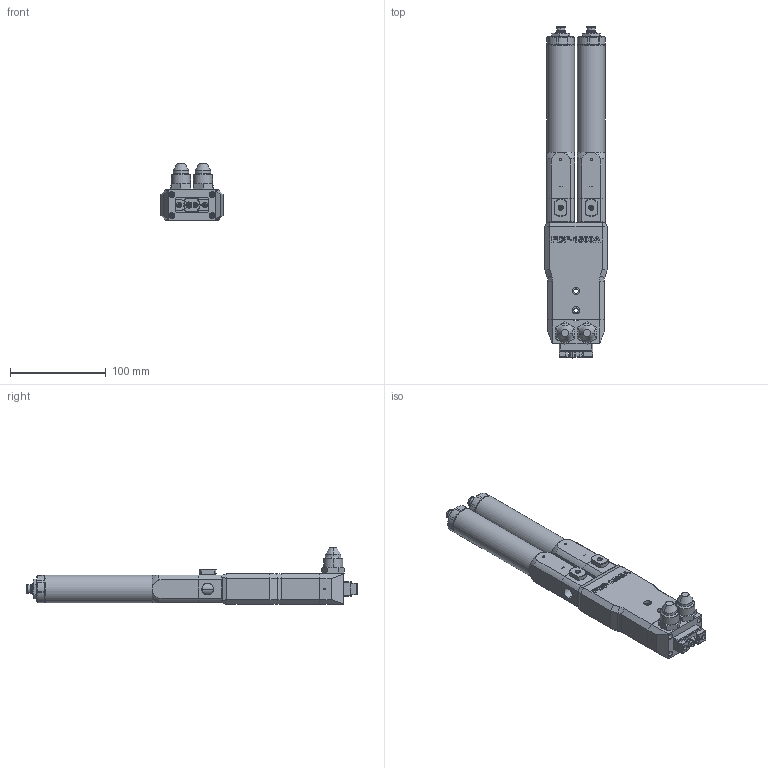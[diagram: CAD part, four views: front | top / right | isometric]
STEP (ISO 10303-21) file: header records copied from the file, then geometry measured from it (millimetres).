
FILE_DESCRIPTION (( 'STEP AP214' ), '1' );
FILE_NAME ('PDP-1500BB.STEP', '2024-10-11T12:26:54', ( '' ), ( '' ), 'SwSTEP 2.0', 'SolidWorks 2024', '' );
FILE_SCHEMA (( 'AUTOMOTIVE_DESIGN' ));
Length unit declared in the file: millimetre
Products named in the file (1): PDP-1500BB
Bounding box: 65 x 347 x 59.3 mm (x, y, z)
Volume: 529740.1 mm3; surface area: 128413.2 mm2
Topology: 13 solids, 13 shells, 1693 faces, 4306 edges, 2738 vertices
Faces by surface type: plane 824, cylinder 506, cone 325, bspline 18, torus 12, sphere 8
Full cylindrical faces by diameter (mm): 29 x2
Entity records: 63485 total; most frequent: CARTESIAN_POINT 22762, ORIENTED_EDGE 8538, DIRECTION 8342, EDGE_CURVE 4269, AXIS2_PLACEMENT_3D 2969, VERTEX_POINT 2737, LINE 2404, VECTOR 2404
